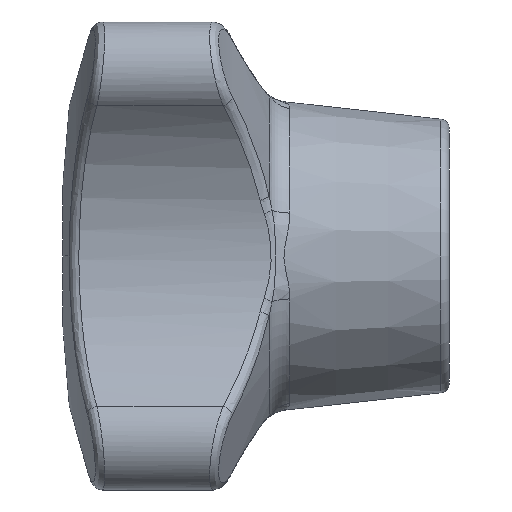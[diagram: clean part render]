
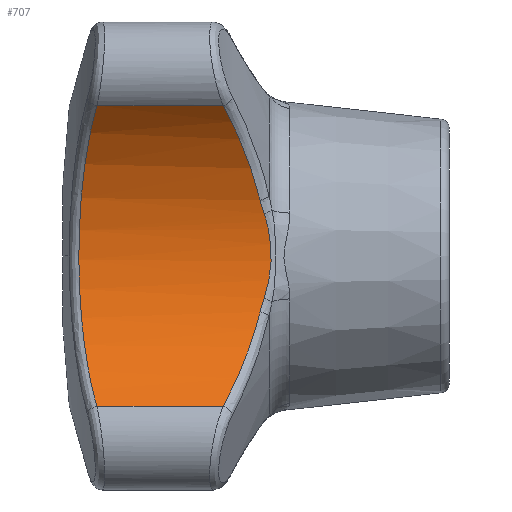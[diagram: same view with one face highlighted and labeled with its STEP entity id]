
A CAD part, left-side view. The second image highlights one B-rep face of the part: STEP entity #707.
In plain terms, the highlighted cylindrical face has radius 11 mm (diameter 22 mm), a partial arc.
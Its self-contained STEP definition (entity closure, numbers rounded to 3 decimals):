
#657 = ORIENTED_EDGE ( 'NONE', *, *, #704, .T. ) ;
#703 = VERTEX_POINT ( 'NONE', #2154 ) ;
#704 = EDGE_CURVE ( 'NONE', #7941, #705, #2196, .T. ) ;
#705 = VERTEX_POINT ( 'NONE', #2155 ) ;
#706 = ORIENTED_EDGE ( 'NONE', *, *, #710, .T. ) ;
#707 = ADVANCED_FACE ( 'NONE', ( #2199 ), #2156, .F. ) ;
#708 = ORIENTED_EDGE ( 'NONE', *, *, #8317, .T. ) ;
#709 = ORIENTED_EDGE ( 'NONE', *, *, #712, .T. ) ;
#710 = EDGE_CURVE ( 'NONE', #705, #703, #2235, .T. ) ;
#711 = ORIENTED_EDGE ( 'NONE', *, *, #775, .T. ) ;
#712 = EDGE_CURVE ( 'NONE', #703, #716, #2229, .T. ) ;
#713 = VERTEX_POINT ( 'NONE', #2194 ) ;
#714 = VERTEX_POINT ( 'NONE', #2236 ) ;
#715 = EDGE_CURVE ( 'NONE', #716, #731, #2228, .T. ) ;
#716 = VERTEX_POINT ( 'NONE', #2216 ) ;
#725 = EDGE_LOOP ( 'NONE', ( #708, #657, #706, #709, #727, #711, #774, #777 ) ) ;
#727 = ORIENTED_EDGE ( 'NONE', *, *, #715, .T. ) ;
#731 = VERTEX_POINT ( 'NONE', #2249 ) ;
#774 = ORIENTED_EDGE ( 'NONE', *, *, #778, .F. ) ;
#775 = EDGE_CURVE ( 'NONE', #731, #714, #2451, .T. ) ;
#777 = ORIENTED_EDGE ( 'NONE', *, *, #780, .T. ) ;
#778 = EDGE_CURVE ( 'NONE', #713, #714, #2450, .T. ) ;
#780 = EDGE_CURVE ( 'NONE', #713, #7859, #2459, .T. ) ;
#2154 = CARTESIAN_POINT ( 'NONE',  ( -8.344, 9.543, -2.184 ) ) ;
#2155 = CARTESIAN_POINT ( 'NONE',  ( -8.509, 9.748, -2.879 ) ) ;
#2156 = CYLINDRICAL_SURFACE ( 'NONE', #2158, 11. ) ;
#2158 = AXIS2_PLACEMENT_3D ( 'NONE', #2195, #2198, #2197 ) ;
#2184 = CARTESIAN_POINT ( 'NONE',  ( -8.509, 9.748, -2.879 ) ) ;
#2185 = CARTESIAN_POINT ( 'NONE',  ( -8.637, 9.861, -3.354 ) ) ;
#2186 = CARTESIAN_POINT ( 'NONE',  ( -8.794, 9.992, -3.809 ) ) ;
#2187 = CARTESIAN_POINT ( 'NONE',  ( -9.162, 10.279, -4.687 ) ) ;
#2188 = CARTESIAN_POINT ( 'NONE',  ( -9.372, 10.435, -5.11 ) ) ;
#2189 = CARTESIAN_POINT ( 'NONE',  ( -9.846, 10.763, -5.927 ) ) ;
#2190 = CARTESIAN_POINT ( 'NONE',  ( -10.11, 10.935, -6.321 ) ) ;
#2191 = CARTESIAN_POINT ( 'NONE',  ( -10.681, 11.286, -7.066 ) ) ;
#2192 = CARTESIAN_POINT ( 'NONE',  ( -10.989, 11.465, -7.418 ) ) ;
#2193 = CARTESIAN_POINT ( 'NONE',  ( -11.32, 11.647, -7.751 ) ) ;
#2194 = CARTESIAN_POINT ( 'NONE',  ( -11.32, 18.149, 7.751 ) ) ;
#2195 = CARTESIAN_POINT ( 'NONE',  ( -19.125, 20., 0. ) ) ;
#2196 = B_SPLINE_CURVE_WITH_KNOTS ( 'NONE', 3,
 ( #2193, #2192, #2191, #2190, #2189, #2188, #2187, #2186, #2185, #2184 ),
 .UNSPECIFIED., .F., .F.,
 ( 4, 2, 2, 2, 4 ),
 ( 0., 0.002, 0.003, 0.005, 0.006 ),
 .UNSPECIFIED. ) ;
#2197 = DIRECTION ( 'NONE',  ( 0., 0., -1. ) ) ;
#2198 = DIRECTION ( 'NONE',  ( 0., -1., 0. ) ) ;
#2199 = FACE_OUTER_BOUND ( 'NONE', #725, .T. ) ;
#2212 = CARTESIAN_POINT ( 'NONE',  ( -8.445, 9.693, 2.646 ) ) ;
#2213 = CARTESIAN_POINT ( 'NONE',  ( -8.391, 9.622, 2.415 ) ) ;
#2214 = CARTESIAN_POINT ( 'NONE',  ( -8.344, 9.543, 2.184 ) ) ;
#2216 = CARTESIAN_POINT ( 'NONE',  ( -8.344, 9.543, 2.184 ) ) ;
#2218 = CARTESIAN_POINT ( 'NONE',  ( -8.344, 9.543, 2.184 ) ) ;
#2219 = CARTESIAN_POINT ( 'NONE',  ( -8.274, 9.424, 1.836 ) ) ;
#2220 = CARTESIAN_POINT ( 'NONE',  ( -8.219, 9.336, 1.479 ) ) ;
#2221 = CARTESIAN_POINT ( 'NONE',  ( -8.145, 9.21, 0.751 ) ) ;
#2222 = CARTESIAN_POINT ( 'NONE',  ( -8.125, 9.174, 0.377 ) ) ;
#2223 = CARTESIAN_POINT ( 'NONE',  ( -8.125, 9.174, -0.371 ) ) ;
#2224 = CARTESIAN_POINT ( 'NONE',  ( -8.144, 9.21, -0.744 ) ) ;
#2225 = CARTESIAN_POINT ( 'NONE',  ( -8.218, 9.335, -1.475 ) ) ;
#2226 = CARTESIAN_POINT ( 'NONE',  ( -8.274, 9.424, -1.836 ) ) ;
#2227 = CARTESIAN_POINT ( 'NONE',  ( -8.344, 9.543, -2.184 ) ) ;
#2228 = B_SPLINE_CURVE_WITH_KNOTS ( 'NONE', 3,
 ( #2214, #2213, #2212, #2264 ),
 .UNSPECIFIED., .F., .F.,
 ( 4, 4 ),
 ( 0., 0.001 ),
 .UNSPECIFIED. ) ;
#2229 = B_SPLINE_CURVE_WITH_KNOTS ( 'NONE', 3,
 ( #2227, #2226, #2225, #2224, #2223, #2222, #2221, #2220, #2219, #2218 ),
 .UNSPECIFIED., .F., .F.,
 ( 4, 2, 2, 2, 4 ),
 ( 0., 0.001, 0.002, 0.003, 0.004 ),
 .UNSPECIFIED. ) ;
#2231 = CARTESIAN_POINT ( 'NONE',  ( -8.344, 9.543, -2.184 ) ) ;
#2232 = CARTESIAN_POINT ( 'NONE',  ( -8.391, 9.622, -2.415 ) ) ;
#2233 = CARTESIAN_POINT ( 'NONE',  ( -8.445, 9.693, -2.646 ) ) ;
#2234 = CARTESIAN_POINT ( 'NONE',  ( -8.509, 9.748, -2.879 ) ) ;
#2235 = B_SPLINE_CURVE_WITH_KNOTS ( 'NONE', 3,
 ( #2234, #2233, #2232, #2231 ),
 .UNSPECIFIED., .F., .F.,
 ( 4, 4 ),
 ( 0., 0.001 ),
 .UNSPECIFIED. ) ;
#2236 = CARTESIAN_POINT ( 'NONE',  ( -11.32, 11.647, 7.751 ) ) ;
#2249 = CARTESIAN_POINT ( 'NONE',  ( -8.509, 9.748, 2.879 ) ) ;
#2264 = CARTESIAN_POINT ( 'NONE',  ( -8.509, 9.748, 2.879 ) ) ;
#2412 = VECTOR ( 'NONE', #2465, 1000. ) ;
#2450 = LINE ( 'NONE', #2455, #2412 ) ;
#2451 = B_SPLINE_CURVE_WITH_KNOTS ( 'NONE', 3,
 ( #2473, #2472, #2471, #2470, #2469, #2468, #2467, #2466 ),
 .UNSPECIFIED., .F., .F.,
 ( 4, 2, 2, 4 ),
 ( 0., 0.001, 0.003, 0.006 ),
 .UNSPECIFIED. ) ;
#2455 = CARTESIAN_POINT ( 'NONE',  ( -11.32, 20., 7.751 ) ) ;
#2457 = CARTESIAN_POINT ( 'NONE',  ( -11.32, 18.149, 7.751 ) ) ;
#2459 = B_SPLINE_CURVE_WITH_KNOTS ( 'NONE', 3,
 ( #2457, #2518, #2517, #2516, #2515, #2514, #2513, #2512, #2511, #2510, #2509, #2508, #2507, #2506, #2505, #2504, #2503, #2502, #2501, #2500, #2499, #2498, #2497, #2496, #2495 ),
 .UNSPECIFIED., .F., .F.,
 ( 4, 2, 2, 1, 2, 2, 2, 2, 2, 2, 2, 2, 4 ),
 ( 0., 0.002, 0.003, 0.004, 0.005, 0.007, 0.009, 0.01, 0.011, 0.013, 0.014, 0.015, 0.017 ),
 .UNSPECIFIED. ) ;
#2465 = DIRECTION ( 'NONE',  ( 0., -1., 0. ) ) ;
#2466 = CARTESIAN_POINT ( 'NONE',  ( -11.32, 11.647, 7.751 ) ) ;
#2467 = CARTESIAN_POINT ( 'NONE',  ( -10.659, 11.284, 7.086 ) ) ;
#2468 = CARTESIAN_POINT ( 'NONE',  ( -10.091, 10.932, 6.347 ) ) ;
#2469 = CARTESIAN_POINT ( 'NONE',  ( -9.378, 10.439, 5.12 ) ) ;
#2470 = CARTESIAN_POINT ( 'NONE',  ( -9.164, 10.281, 4.692 ) ) ;
#2471 = CARTESIAN_POINT ( 'NONE',  ( -8.794, 9.993, 3.809 ) ) ;
#2472 = CARTESIAN_POINT ( 'NONE',  ( -8.637, 9.861, 3.353 ) ) ;
#2473 = CARTESIAN_POINT ( 'NONE',  ( -8.509, 9.748, 2.879 ) ) ;
#2495 = CARTESIAN_POINT ( 'NONE',  ( -11.32, 18.149, -7.751 ) ) ;
#2496 = CARTESIAN_POINT ( 'NONE',  ( -10.817, 18.297, -7.245 ) ) ;
#2497 = CARTESIAN_POINT ( 'NONE',  ( -10.369, 18.428, -6.696 ) ) ;
#2498 = CARTESIAN_POINT ( 'NONE',  ( -9.779, 18.6, -5.811 ) ) ;
#2499 = CARTESIAN_POINT ( 'NONE',  ( -9.595, 18.654, -5.506 ) ) ;
#2500 = CARTESIAN_POINT ( 'NONE',  ( -9.257, 18.752, -4.873 ) ) ;
#2501 = CARTESIAN_POINT ( 'NONE',  ( -9.102, 18.797, -4.545 ) ) ;
#2502 = CARTESIAN_POINT ( 'NONE',  ( -8.689, 18.917, -3.55 ) ) ;
#2503 = CARTESIAN_POINT ( 'NONE',  ( -8.481, 18.977, -2.866 ) ) ;
#2504 = CARTESIAN_POINT ( 'NONE',  ( -8.269, 19.039, -1.807 ) ) ;
#2505 = CARTESIAN_POINT ( 'NONE',  ( -8.215, 19.055, -1.447 ) ) ;
#2506 = CARTESIAN_POINT ( 'NONE',  ( -8.143, 19.075, -0.725 ) ) ;
#2507 = CARTESIAN_POINT ( 'NONE',  ( -8.125, 19.08, -0.364 ) ) ;
#2508 = CARTESIAN_POINT ( 'NONE',  ( -8.125, 19.081, 0.714 ) ) ;
#2509 = CARTESIAN_POINT ( 'NONE',  ( -8.194, 19.06, 1.43 ) ) ;
#2510 = CARTESIAN_POINT ( 'NONE',  ( -8.406, 18.999, 2.498 ) ) ;
#2511 = CARTESIAN_POINT ( 'NONE',  ( -8.495, 18.973, 2.85 ) ) ;
#2512 = CARTESIAN_POINT ( 'NONE',  ( -8.703, 18.913, 3.538 ) ) ;
#2513 = CARTESIAN_POINT ( 'NONE',  ( -8.944, 18.843, 4.211 ) ) ;
#2514 = CARTESIAN_POINT ( 'NONE',  ( -9.249, 18.754, 4.858 ) ) ;
#2515 = CARTESIAN_POINT ( 'NONE',  ( -9.587, 18.656, 5.491 ) ) ;
#2516 = CARTESIAN_POINT ( 'NONE',  ( -9.772, 18.602, 5.801 ) ) ;
#2517 = CARTESIAN_POINT ( 'NONE',  ( -10.367, 18.429, 6.694 ) ) ;
#2518 = CARTESIAN_POINT ( 'NONE',  ( -10.817, 18.297, 7.245 ) ) ;
#5559 = CARTESIAN_POINT ( 'NONE',  ( -11.32, 18.149, -7.751 ) ) ;
#5819 = CARTESIAN_POINT ( 'NONE',  ( -11.32, 11.647, -7.751 ) ) ;
#7859 = VERTEX_POINT ( 'NONE', #5559 ) ;
#7941 = VERTEX_POINT ( 'NONE', #5819 ) ;
#8025 = VECTOR ( 'NONE', #8149, 1000. ) ;
#8026 = CARTESIAN_POINT ( 'NONE',  ( -11.32, 20., -7.751 ) ) ;
#8027 = LINE ( 'NONE', #8026, #8025 ) ;
#8149 = DIRECTION ( 'NONE',  ( 0., -1., 0. ) ) ;
#8317 = EDGE_CURVE ( 'NONE', #7859, #7941, #8027, .T. ) ;
